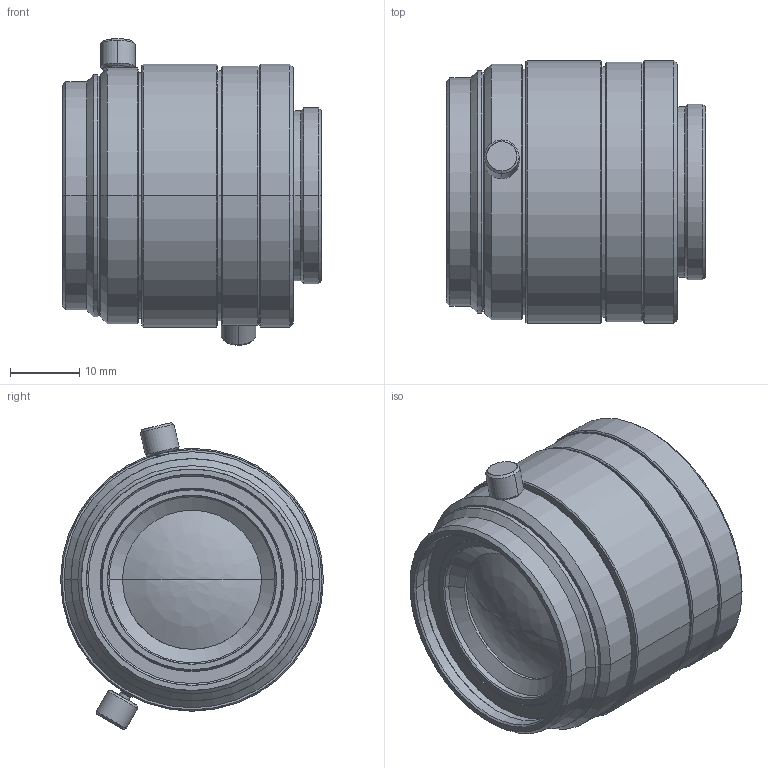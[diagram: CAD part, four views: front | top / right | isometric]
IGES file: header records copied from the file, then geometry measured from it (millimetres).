
Start section: SolidWorks IGES file using analytic representation for surfaces
Global section: file name: C:\Users\miura_vst\Desktop\H1價僗曄峏\VS-2514H1.IGS; native system: SolidWorks 2016; preprocessor: SolidWorks 2016; author: miura_vst; date: 161208.130848; units: millimetre
Bounding box: 37.47 x 38 x 44.32 mm (x, y, z)
Surface area: 7670.7 mm2 (no closed solid volume)
Topology: 0 solids, 0 shells, 126 faces, 2292 edges, 2291 vertices
Faces by surface type: revolution 106, bspline 20
